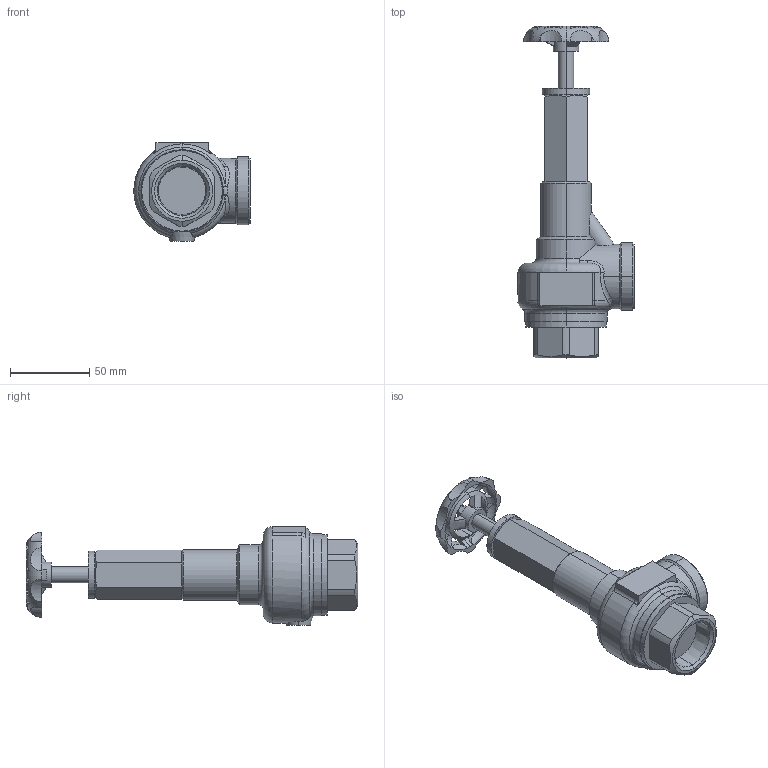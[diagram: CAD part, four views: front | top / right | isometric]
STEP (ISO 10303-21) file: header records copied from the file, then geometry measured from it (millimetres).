
FILE_DESCRIPTION (( 'STEP AP203' ), '1' );
FILE_NAME ('AL-150TR 25A.STEP', '2026-01-08T01:12:05', ( '' ), ( '' ), 'SwSTEP 2.0', 'SolidWorks 2024', '' );
FILE_SCHEMA (( 'CONFIG_CONTROL_DESIGN' ));
Length unit declared in the file: millimetre
Products named in the file (1): AL-150TR 25A
Bounding box: 73.44 x 210 x 62.5 mm (x, y, z)
Volume: 237845.4 mm3; surface area: 38824.3 mm2
Topology: 1 solids, 1 shells, 184 faces, 493 edges, 306 vertices
Faces by surface type: plane 74, cylinder 55, cone 28, torus 16, bspline 9, sphere 2
Entity records: 7849 total; most frequent: CARTESIAN_POINT 3267, ORIENTED_EDGE 986, DIRECTION 918, EDGE_CURVE 493, AXIS2_PLACEMENT_3D 374, VERTEX_POINT 306, EDGE_LOOP 201, CIRCLE 198
